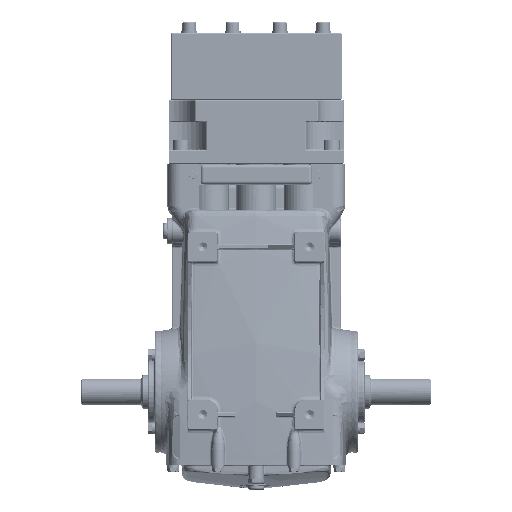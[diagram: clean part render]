
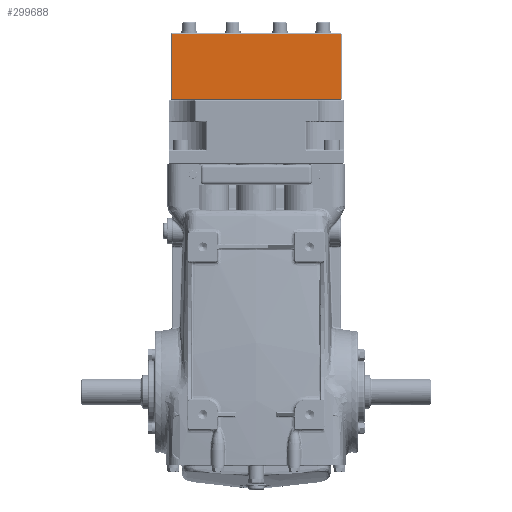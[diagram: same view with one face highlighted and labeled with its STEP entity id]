
A CAD part, front view. The second image highlights one B-rep face of the part: STEP entity #299688.
In plain terms, the highlighted planar face has unit normal (0, -1, 0).
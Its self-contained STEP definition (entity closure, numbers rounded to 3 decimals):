
#2133 = LINE ( 'NONE', #174182, #244387 ) ;
#17569 = ORIENTED_EDGE ( 'NONE', *, *, #20033, .F. ) ;
#19743 = PLANE ( 'NONE',  #306163 ) ;
#20033 = EDGE_CURVE ( 'NONE', #115319, #250290, #2133, .T. ) ;
#21175 = EDGE_CURVE ( 'NONE', #115319, #98238, #71099, .T. ) ;
#24315 = DIRECTION ( 'NONE',  ( 0., -1., 0. ) ) ;
#25423 = CARTESIAN_POINT ( 'NONE',  ( -112.002, -31.5, 471. ) ) ;
#27607 = CARTESIAN_POINT ( 'NONE',  ( -111.002, -31.5, 384. ) ) ;
#34345 = EDGE_CURVE ( 'NONE', #247493, #250290, #289267, .T. ) ;
#43437 = DIRECTION ( 'NONE',  ( 0., 0., -1. ) ) ;
#44898 = DIRECTION ( 'NONE',  ( 1., 0., 0. ) ) ;
#52441 = CARTESIAN_POINT ( 'NONE',  ( -112.002, -31.5, 470. ) ) ;
#71099 = LINE ( 'NONE', #52441, #218650 ) ;
#87339 = ORIENTED_EDGE ( 'NONE', *, *, #253407, .T. ) ;
#88778 = CARTESIAN_POINT ( 'NONE',  ( -112.002, -31.5, 384. ) ) ;
#88997 = VECTOR ( 'NONE', #189233, 1000. ) ;
#91163 = EDGE_LOOP ( 'NONE', ( #87339, #215948, #17569, #334159 ) ) ;
#98238 = VERTEX_POINT ( 'NONE', #188729 ) ;
#115319 = VERTEX_POINT ( 'NONE', #243937 ) ;
#116861 = VECTOR ( 'NONE', #44898, 1000. ) ;
#130097 = LINE ( 'NONE', #186940, #88997 ) ;
#174182 = CARTESIAN_POINT ( 'NONE',  ( 110.998, -31.514, 383. ) ) ;
#181487 = DIRECTION ( 'NONE',  ( 0., 0., -1. ) ) ;
#186940 = CARTESIAN_POINT ( 'NONE',  ( -111.002, -31.5, 383. ) ) ;
#188729 = CARTESIAN_POINT ( 'NONE',  ( -111.002, -31.5, 470. ) ) ;
#189233 = DIRECTION ( 'NONE',  ( 0., 0., -1. ) ) ;
#215948 = ORIENTED_EDGE ( 'NONE', *, *, #34345, .T. ) ;
#218650 = VECTOR ( 'NONE', #316240, 1000. ) ;
#227981 = FACE_OUTER_BOUND ( 'NONE', #91163, .T. ) ;
#243937 = CARTESIAN_POINT ( 'NONE',  ( 110.998, -31.514, 470. ) ) ;
#244387 = VECTOR ( 'NONE', #43437, 1000. ) ;
#247493 = VERTEX_POINT ( 'NONE', #27607 ) ;
#250290 = VERTEX_POINT ( 'NONE', #314623 ) ;
#253407 = EDGE_CURVE ( 'NONE', #98238, #247493, #130097, .T. ) ;
#289267 = LINE ( 'NONE', #88778, #116861 ) ;
#299688 = ADVANCED_FACE ( 'NONE', ( #227981 ), #19743, .T. ) ;
#306163 = AXIS2_PLACEMENT_3D ( 'NONE', #25423, #24315, #181487 ) ;
#314623 = CARTESIAN_POINT ( 'NONE',  ( 110.998, -31.514, 384. ) ) ;
#316240 = DIRECTION ( 'NONE',  ( -1., 0., 0. ) ) ;
#334159 = ORIENTED_EDGE ( 'NONE', *, *, #21175, .T. ) ;
